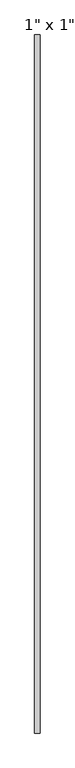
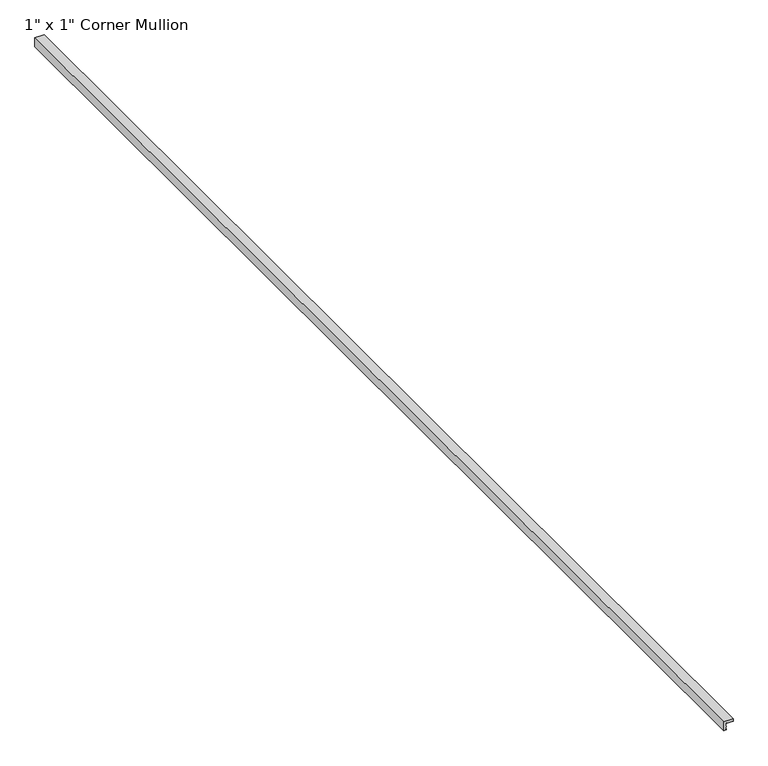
"""IFC4 building model written with IfcOpenShell, lengths in millimetres: proxy geometry."""

from ifc_helpers import new_model, si_unit, frame, origin, place, context, project, spatial, polyline, outline, extrude, source, transform, mapped, element, save


def proxy_9eafbba1(model_context):
    return source(origin(), model_context, "Body", "SweptSolid", [
        extrude(outline(polyline([(6.6, -6.6), (-16.4, -6.6), (-16.4, -0.5), (-14.0, -0.5), (-14.0, -1.5), (-9.1, -1.5), (-9.1, 0.0), (-7.6, 0.0), (-7.6, -1.5), (1.5, -1.5), (1.5, 0.3), (0.0, 0.3), (0.0, 12.3), (1.5, 12.3), (1.5, 14.0), (0.5, 14.0), (0.5, 16.4), (6.6, 16.4), (6.6, -6.6)])), frame((0.0, -1472.1065459, 0.0), z_axis=(0.0, 1.0, 0.0), x_axis=(0.0, 0.0, 1.0)), (0.0, 0.0, 1.0), 2944.2130917),
    ])


if __name__ == "__main__":
    model = new_model("IFC4")
    model_context = context("Model", 3, world=origin())
    ifc_project = project(units=[si_unit("LENGTHUNIT", "METRE", prefix="MILLI")], contexts=[model_context])
    site = spatial("IfcSite", under=ifc_project)
    building = spatial("IfcBuilding", under=site)
    placement = place(None, origin())
    proxy_shape = proxy_9eafbba1(model_context)
    element("IfcBuildingElementProxy", 1, Name="Frame-Teknion-Architectural_Complements-FCMV_1x1_Corner_Mullion-R2018 : 1\" x 1\" Corner Mullion", ObjectType="Frame-Teknion-Architectural_Complements-FCMV_1x1_Corner_Mullion-R2018 : 1\" x 1\" Corner Mullion", at=placement, inside=building, context=model_context, shape_type="MappedRepresentation", body=[
        mapped(proxy_shape, transform((0.0, 0.0, 0.0), x_axis=(1.0, 0.0, 0.0), y_axis=(0.0, 1.0, 0.0), z_axis=(0.0, 0.0, 1.0))),
    ])
    save(model, "model.ifc")
